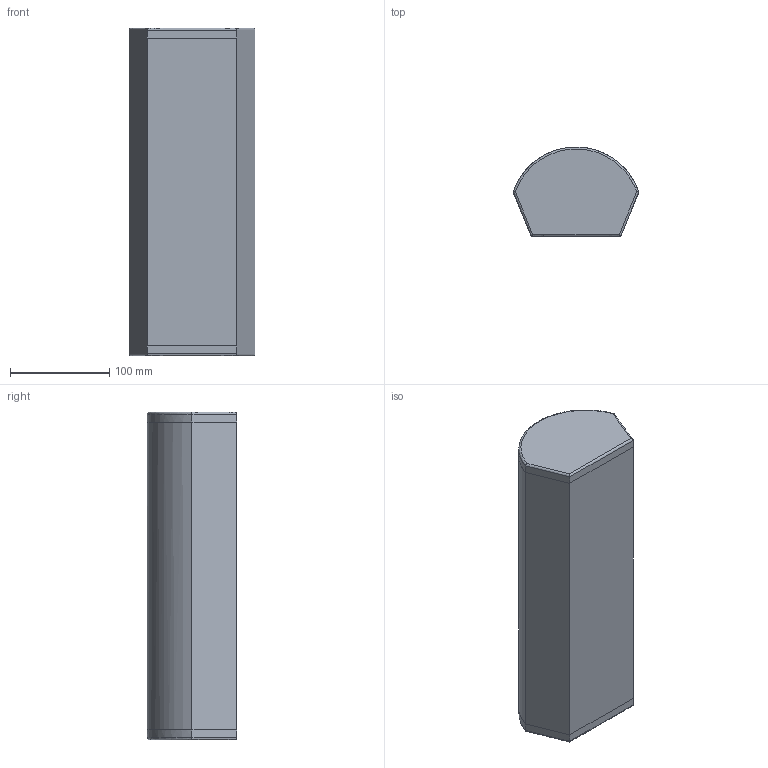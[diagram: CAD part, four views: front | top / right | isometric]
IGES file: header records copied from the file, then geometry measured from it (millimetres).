
Start section: SolidWorks IGES file using analytic representation for surfaces
Global section: file name: \\192.168.111.232\grupos\DISENYO\DESARROLLO DE PRODUCTO\ALDO-3432\ALDO 355 - A3432070\ALDO 355 - A3432070.IGS; native system: SolidWorks 2025; preprocessor: SolidWorks 2025; author: o.domenech; date: 260120.091429; units: millimetre
Bounding box: 126.52 x 89.96 x 330 mm (x, y, z)
Volume: 2978456.4 mm3; surface area: 169960.9 mm2
Topology: 3 solids, 3 shells, 26 faces, 104 edges, 136 vertices
Faces by surface type: bspline 26
